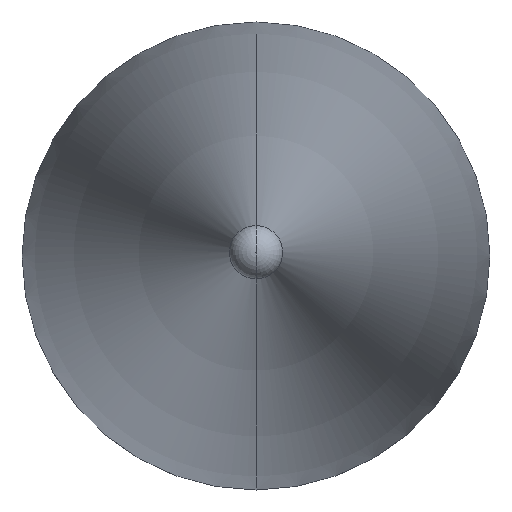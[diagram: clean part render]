
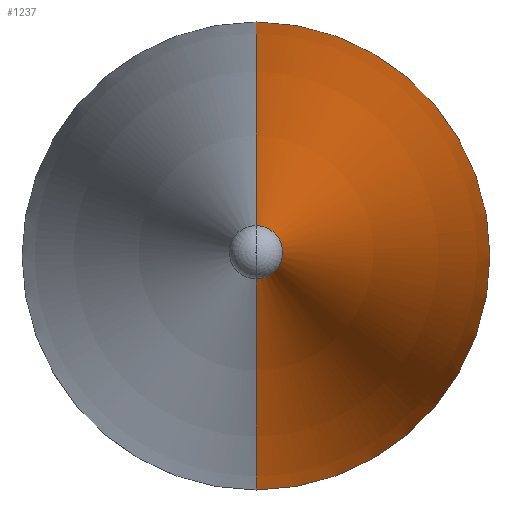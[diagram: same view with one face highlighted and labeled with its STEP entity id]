
A CAD part, top view. The second image highlights one B-rep face of the part: STEP entity #1237.
In plain terms, the highlighted toroidal (fillet/blend) face has major radius 916.963 mm and minor radius 937.855 mm.
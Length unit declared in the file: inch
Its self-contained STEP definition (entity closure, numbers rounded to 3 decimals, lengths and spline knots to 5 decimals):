
#7 = AXIS2_PLACEMENT_3D ( 'NONE', #1083, #450, #657 ) ;
#26 = ORIENTED_EDGE ( 'NONE', *, *, #1434, .F. ) ;
#61 = CARTESIAN_POINT ( 'NONE',  ( 0., -0.09372, 7.29978 ) ) ;
#91 = VERTEX_POINT ( 'NONE', #61 ) ;
#227 = EDGE_LOOP ( 'NONE', ( #708, #1388, #26, #1018 ) ) ;
#257 = EDGE_CURVE ( 'NONE', #1614, #91, #1082, .T. ) ;
#313 = EDGE_CURVE ( 'NONE', #91, #1687, #1695, .T. ) ;
#318 = DIRECTION ( 'NONE',  ( 0., 0., -1. ) ) ;
#331 = CARTESIAN_POINT ( 'NONE',  ( 0., 0.09372, 7.29978 ) ) ;
#343 = CARTESIAN_POINT ( 'NONE',  ( 0., -0.8225, 0. ) ) ;
#401 = AXIS2_PLACEMENT_3D ( 'NONE', #1548, #318, #1735 ) ;
#450 = DIRECTION ( 'NONE',  ( -1., 0., 0. ) ) ;
#510 = DIRECTION ( 'NONE',  ( 0., 1., 0. ) ) ;
#523 = DIRECTION ( 'NONE',  ( 1., 0., 0. ) ) ;
#563 = EDGE_CURVE ( 'NONE', #1614, #1727, #1500, .T. ) ;
#657 = DIRECTION ( 'NONE',  ( 0., 0., 1. ) ) ;
#705 = CARTESIAN_POINT ( 'NONE',  ( 0., 36.10091, 0. ) ) ;
#708 = ORIENTED_EDGE ( 'NONE', *, *, #257, .T. ) ;
#775 = DIRECTION ( 'NONE',  ( 0., 1., 0. ) ) ;
#785 = FACE_OUTER_BOUND ( 'NONE', #227, .T. ) ;
#797 = CARTESIAN_POINT ( 'NONE',  ( 0., 0., 7.29978 ) ) ;
#873 = DIRECTION ( 'NONE',  ( 0., 1., 0. ) ) ;
#962 = AXIS2_PLACEMENT_3D ( 'NONE', #797, #1415, #775 ) ;
#1018 = ORIENTED_EDGE ( 'NONE', *, *, #563, .F. ) ;
#1082 = CIRCLE ( 'NONE', #962, 0.09372 ) ;
#1083 = CARTESIAN_POINT ( 'NONE',  ( 0., -36.10091, 0. ) ) ;
#1125 = CARTESIAN_POINT ( 'NONE',  ( 0., 0., 0. ) ) ;
#1237 = ADVANCED_FACE ( 'NONE', ( #785 ), #1449, .T. ) ;
#1388 = ORIENTED_EDGE ( 'NONE', *, *, #313, .T. ) ;
#1390 = CIRCLE ( 'NONE', #1426, 0.8225 ) ;
#1415 = DIRECTION ( 'NONE',  ( 0., 0., -1. ) ) ;
#1426 = AXIS2_PLACEMENT_3D ( 'NONE', #1125, #1743, #510 ) ;
#1434 = EDGE_CURVE ( 'NONE', #1727, #1687, #1390, .T. ) ;
#1449 = TOROIDAL_SURFACE ( 'NONE', #401, -36.10091, 36.92341 ) ;
#1500 = CIRCLE ( 'NONE', #7, 36.92341 ) ;
#1548 = CARTESIAN_POINT ( 'NONE',  ( 0., 0., 0. ) ) ;
#1614 = VERTEX_POINT ( 'NONE', #331 ) ;
#1687 = VERTEX_POINT ( 'NONE', #343 ) ;
#1695 = CIRCLE ( 'NONE', #1852, 36.92341 ) ;
#1727 = VERTEX_POINT ( 'NONE', #1924 ) ;
#1735 = DIRECTION ( 'NONE',  ( 0., 1., 0. ) ) ;
#1743 = DIRECTION ( 'NONE',  ( 0., 0., -1. ) ) ;
#1852 = AXIS2_PLACEMENT_3D ( 'NONE', #705, #523, #873 ) ;
#1924 = CARTESIAN_POINT ( 'NONE',  ( 0., 0.8225, 0. ) ) ;
